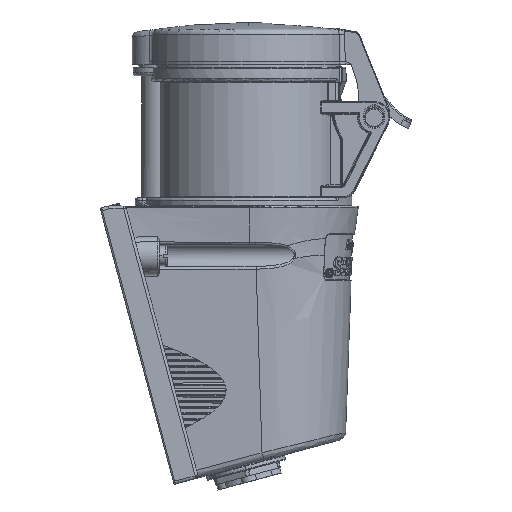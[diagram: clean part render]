
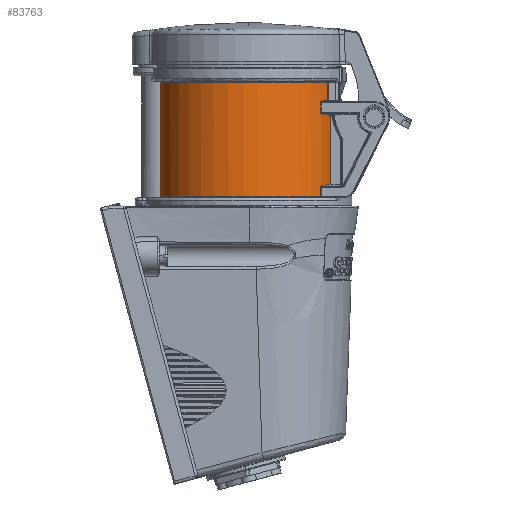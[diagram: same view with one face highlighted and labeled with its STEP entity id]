
A CAD part, left-side view. The second image highlights one B-rep face of the part: STEP entity #83763.
In plain terms, the highlighted cylindrical face has radius 31.95 mm (diameter 63.9 mm), a partial arc.
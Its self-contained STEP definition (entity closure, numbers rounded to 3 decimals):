
#27731=CARTESIAN_POINT('',(0.,0.,3.3));
#27732=DIRECTION('',(0.,0.,-1.));
#27733=DIRECTION('',(-0.583,-0.813,
0.));
#27734=AXIS2_PLACEMENT_3D('',#27731,#27732,#27733);
#27767=DIRECTION('',(0.,0.,1.));
#27768=VECTOR('',#27767,40.9);
#27769=CARTESIAN_POINT('',(-5.969,31.388,3.3));
#27770=LINE('5717',#27769,#27768);
#27790=CARTESIAN_POINT('',(0.,0.,44.2));
#27791=DIRECTION('',(0.,0.,-1.));
#27792=DIRECTION('',(-0.457,-0.889,
0.));
#27793=AXIS2_PLACEMENT_3D('',#27790,#27791,#27792);
#28142=DIRECTION('',(0.,0.,-1.));
#28143=VECTOR('',#28142,3.48);
#28144=CARTESIAN_POINT('',(-18.625,-25.96,
6.78));
#28145=LINE('5539',#28144,#28143);
#28172=CARTESIAN_POINT('',(-18.137,-26.303,
7.318));
#28173=CARTESIAN_POINT('',(-18.188,-26.268,
7.314));
#28174=CARTESIAN_POINT('',(-18.283,-26.202,
7.291));
#28175=CARTESIAN_POINT('',(-18.411,-26.112,
7.22));
#28176=CARTESIAN_POINT('',(-18.509,-26.043,
7.124));
#28177=CARTESIAN_POINT('',(-18.578,-25.994,
7.014));
#28178=CARTESIAN_POINT('',(-18.617,-25.966,
6.897));
#28179=CARTESIAN_POINT('',(-18.625,-25.96,
6.819));
#28180=CARTESIAN_POINT('',(-18.625,-25.96,
6.78));
#28207=CARTESIAN_POINT('',(-12.83,-29.261,
7.787));
#28208=CARTESIAN_POINT('',(-13.449,-28.989,
7.732));
#28209=CARTESIAN_POINT('',(-14.671,-28.407,
7.624));
#28210=CARTESIAN_POINT('',(-16.443,-27.419,
7.468));
#28211=CARTESIAN_POINT('',(-17.58,-26.687,
7.367));
#28212=CARTESIAN_POINT('',(-18.137,-26.303,
7.318));
#28258=DIRECTION('',(0.,0.,1.));
#28259=VECTOR('',#28258,24.627);
#28260=CARTESIAN_POINT('',(-12.83,-29.261,
7.787));
#28261=LINE('5829',#28260,#28259);
#28338=CARTESIAN_POINT('',(-12.83,-29.261,
32.413));
#28339=CARTESIAN_POINT('',(-13.449,-28.989,
32.468));
#28340=CARTESIAN_POINT('',(-14.671,-28.407,
32.576));
#28341=CARTESIAN_POINT('',(-16.443,-27.419,
32.732));
#28342=CARTESIAN_POINT('',(-17.58,-26.687,
32.833));
#28343=CARTESIAN_POINT('',(-18.137,-26.303,
32.882));
#28400=CARTESIAN_POINT('',(-18.137,-26.303,
32.882));
#28401=CARTESIAN_POINT('',(-18.188,-26.268,
32.886));
#28402=CARTESIAN_POINT('',(-18.283,-26.202,
32.909));
#28403=CARTESIAN_POINT('',(-18.411,-26.112,
32.98));
#28404=CARTESIAN_POINT('',(-18.509,-26.043,
33.075));
#28405=CARTESIAN_POINT('',(-18.577,-25.994,
33.185));
#28406=CARTESIAN_POINT('',(-18.617,-25.966,
33.303));
#28407=CARTESIAN_POINT('',(-18.625,-25.96,
33.381));
#28408=CARTESIAN_POINT('',(-18.625,-25.96,
33.42));
#28428=DIRECTION('',(0.,0.,1.));
#28429=VECTOR('',#28428,3.485);
#28430=CARTESIAN_POINT('',(-18.625,-25.96,
33.42));
#28431=LINE('5531',#28430,#28429);
#28457=CARTESIAN_POINT('',(-18.625,-25.96,
36.905));
#28458=CARTESIAN_POINT('',(-18.625,-25.96,
36.95));
#28459=CARTESIAN_POINT('',(-18.615,-25.967,
37.04));
#28460=CARTESIAN_POINT('',(-18.568,-26.001,
37.175));
#28461=CARTESIAN_POINT('',(-18.486,-26.059,
37.302));
#28462=CARTESIAN_POINT('',(-18.366,-26.144,
37.41));
#28463=CARTESIAN_POINT('',(-18.212,-26.252,
37.485));
#28464=CARTESIAN_POINT('',(-18.1,-26.328,
37.504));
#28465=CARTESIAN_POINT('',(-18.041,-26.369,
37.505));
#28588=DIRECTION('',(0.,0.,1.));
#28589=VECTOR('',#28588,6.634);
#28590=CARTESIAN_POINT('',(-14.613,-28.412,
37.566));
#28591=LINE('5524',#28590,#28589);
#28629=CARTESIAN_POINT('',(-18.041,-26.369,
37.505));
#28630=CARTESIAN_POINT('',(-17.675,-26.62,
37.512));
#28631=CARTESIAN_POINT('',(-16.932,-27.105,
37.525));
#28632=CARTESIAN_POINT('',(-15.788,-27.787,
37.545));
#28633=CARTESIAN_POINT('',(-15.007,-28.21,
37.559));
#28634=CARTESIAN_POINT('',(-14.613,-28.412,
37.566));
#46340=CARTESIAN_POINT('',(-14.613,-28.412,44.2));
#46341=CARTESIAN_POINT('',(-5.969,31.388,44.2));
#46342=VERTEX_POINT('',#46340);
#46343=VERTEX_POINT('',#46341);
#46348=CARTESIAN_POINT('',(-14.613,-28.412,
37.566));
#46349=VERTEX_POINT('',#46348);
#46353=VERTEX_POINT('',#28629);
#46355=VERTEX_POINT('',#28457);
#46358=CARTESIAN_POINT('',(-18.625,-25.96,
33.42));
#46359=VERTEX_POINT('',#46358);
#46361=VERTEX_POINT('',#28400);
#46363=VERTEX_POINT('',#28338);
#46364=CARTESIAN_POINT('',(-18.625,-25.96,
3.3));
#46365=CARTESIAN_POINT('',(-5.969,31.388,3.3));
#46366=VERTEX_POINT('',#46364);
#46367=VERTEX_POINT('',#46365);
#46374=CARTESIAN_POINT('',(-18.625,-25.96,
6.78));
#46375=VERTEX_POINT('',#46374);
#46378=VERTEX_POINT('',#28172);
#46616=CARTESIAN_POINT('',(-12.83,-29.261,
7.787));
#46617=VERTEX_POINT('',#46616);
#83731=CARTESIAN_POINT('',(0.,0.,-10.45));
#83732=DIRECTION('',(0.,0.,1.));
#83733=DIRECTION('',(-1.,0.,0.));
#83734=AXIS2_PLACEMENT_3D('',#83731,#83732,#83733);
#83735=CYLINDRICAL_SURFACE('1258',#83734,31.95);
#83737=ORIENTED_EDGE('5521',*,*,#83736,.F.);
#83739=ORIENTED_EDGE('5524',*,*,#83738,.F.);
#83741=ORIENTED_EDGE('5527',*,*,#83740,.F.);
#83743=ORIENTED_EDGE('5529',*,*,#83742,.F.);
#83745=ORIENTED_EDGE('5531',*,*,#83744,.F.);
#83747=ORIENTED_EDGE('5533',*,*,#83746,.F.);
#83749=ORIENTED_EDGE('5535',*,*,#83748,.F.);
#83751=ORIENTED_EDGE('5829',*,*,#83750,.F.);
#83753=ORIENTED_EDGE('5828',*,*,#83752,.T.);
#83755=ORIENTED_EDGE('5541',*,*,#83754,.T.);
#83757=ORIENTED_EDGE('5539',*,*,#83756,.T.);
#83758=ORIENTED_EDGE('5536',*,*,#83710,.T.);
#83760=ORIENTED_EDGE('5717',*,*,#83759,.T.);
#83761=EDGE_LOOP('1258',(#83737,#83739,#83741,#83743,#83745,#83747,#83749,
#83751,#83753,#83755,#83757,#83758,#83760));
#83762=FACE_OUTER_BOUND('1258',#83761,.F.);
#27735=CIRCLE('5536',#27734,31.95);
#27794=CIRCLE('5521',#27793,31.95);
#28181=B_SPLINE_CURVE_WITH_KNOTS('5541',3,(#28172,#28173,#28174,#28175,#28176,
#28177,#28178,#28179,#28180),.UNSPECIFIED.,.F.,.F.,(4,1,1,1,1,1,4),(0.,
0.167,0.333,0.5,0.667,0.833,
1.),.UNSPECIFIED.);
#28213=B_SPLINE_CURVE_WITH_KNOTS('5828',3,(#28207,#28208,#28209,#28210,#28211,
#28212),.UNSPECIFIED.,.F.,.F.,(4,1,1,4),(0.,0.333,
0.667,1.),.UNSPECIFIED.);
#28344=B_SPLINE_CURVE_WITH_KNOTS('5535',3,(#28338,#28339,#28340,#28341,#28342,
#28343),.UNSPECIFIED.,.F.,.F.,(4,1,1,4),(0.,0.333,
0.667,1.),.UNSPECIFIED.);
#28409=B_SPLINE_CURVE_WITH_KNOTS('5533',3,(#28400,#28401,#28402,#28403,#28404,
#28405,#28406,#28407,#28408),.UNSPECIFIED.,.F.,.F.,(4,1,1,1,1,1,4),(0.,
0.167,0.333,0.5,0.667,0.833,
1.),.UNSPECIFIED.);
#28466=B_SPLINE_CURVE_WITH_KNOTS('5529',3,(#28457,#28458,#28459,#28460,#28461,
#28462,#28463,#28464,#28465),.UNSPECIFIED.,.F.,.F.,(4,1,1,1,1,1,4),(0.,
0.167,0.333,0.5,0.667,0.833,
1.),.UNSPECIFIED.);
#28635=B_SPLINE_CURVE_WITH_KNOTS('5527',3,(#28629,#28630,#28631,#28632,#28633,
#28634),.UNSPECIFIED.,.F.,.F.,(4,1,1,4),(0.,0.333,
0.667,1.),.UNSPECIFIED.);
#83710=EDGE_CURVE('5536',#46366,#46367,#27735,.T.);
#83736=EDGE_CURVE('5521',#46342,#46343,#27794,.T.);
#83738=EDGE_CURVE('5524',#46349,#46342,#28591,.T.);
#83740=EDGE_CURVE('5527',#46353,#46349,#28635,.T.);
#83742=EDGE_CURVE('5529',#46355,#46353,#28466,.T.);
#83744=EDGE_CURVE('5531',#46359,#46355,#28431,.T.);
#83746=EDGE_CURVE('5533',#46361,#46359,#28409,.T.);
#83748=EDGE_CURVE('5535',#46363,#46361,#28344,.T.);
#83750=EDGE_CURVE('5829',#46617,#46363,#28261,.T.);
#83752=EDGE_CURVE('5828',#46617,#46378,#28213,.T.);
#83754=EDGE_CURVE('5541',#46378,#46375,#28181,.T.);
#83756=EDGE_CURVE('5539',#46375,#46366,#28145,.T.);
#83759=EDGE_CURVE('5717',#46367,#46343,#27770,.T.);
#83763=ADVANCED_FACE('1258',(#83762),#83735,.T.);
